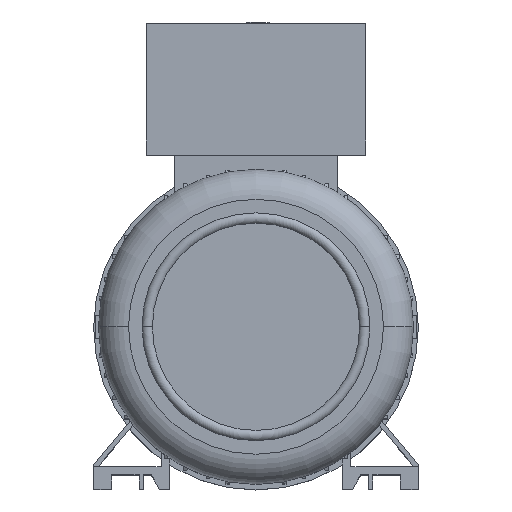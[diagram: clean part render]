
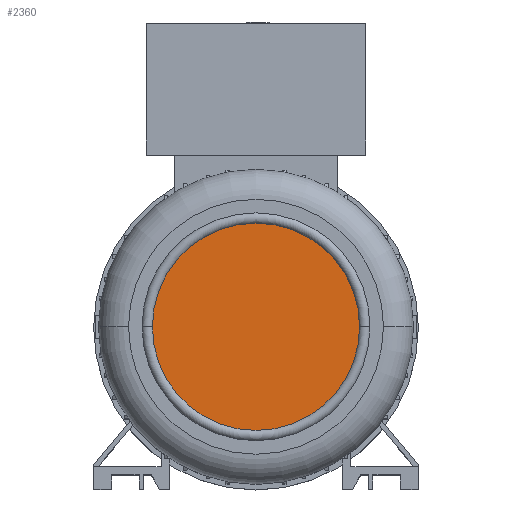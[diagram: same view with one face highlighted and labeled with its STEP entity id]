
A CAD part, top view. The second image highlights one B-rep face of the part: STEP entity #2360.
In plain terms, the highlighted planar face has unit normal (0, 0, 1).
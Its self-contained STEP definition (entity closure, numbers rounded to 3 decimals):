
#201 = DIRECTION ( 'NONE',  ( -1., 0., 0. ) ) ;
#2225 = AXIS2_PLACEMENT_3D ( 'NONE', #20151, #11473, #11555 ) ;
#2360 = ADVANCED_FACE ( 'NONE', ( #21676 ), #2731, .T. ) ;
#2731 = PLANE ( 'NONE',  #17435 ) ;
#8241 = EDGE_LOOP ( 'NONE', ( #17184, #9592 ) ) ;
#9592 = ORIENTED_EDGE ( 'NONE', *, *, #17448, .F. ) ;
#9614 = CIRCLE ( 'NONE', #2225, 63.838 ) ;
#11473 = DIRECTION ( 'NONE',  ( 0., 0., -1. ) ) ;
#11546 = VERTEX_POINT ( 'NONE', #13563 ) ;
#11555 = DIRECTION ( 'NONE',  ( -1., 0., 0. ) ) ;
#12007 = EDGE_CURVE ( 'NONE', #11546, #12756, #9614, .T. ) ;
#12428 = CIRCLE ( 'NONE', #14909, 63.838 ) ;
#12756 = VERTEX_POINT ( 'NONE', #21150 ) ;
#13563 = CARTESIAN_POINT ( 'NONE',  ( -63.838, 0., 178. ) ) ;
#14886 = CARTESIAN_POINT ( 'NONE',  ( 0., 0., 178. ) ) ;
#14909 = AXIS2_PLACEMENT_3D ( 'NONE', #21127, #17930, #201 ) ;
#17184 = ORIENTED_EDGE ( 'NONE', *, *, #12007, .F. ) ;
#17435 = AXIS2_PLACEMENT_3D ( 'NONE', #14886, #21879, #18552 ) ;
#17448 = EDGE_CURVE ( 'NONE', #12756, #11546, #12428, .T. ) ;
#17930 = DIRECTION ( 'NONE',  ( 0., 0., -1. ) ) ;
#18552 = DIRECTION ( 'NONE',  ( 1., 0., 0. ) ) ;
#20151 = CARTESIAN_POINT ( 'NONE',  ( 0., 0., 178. ) ) ;
#21127 = CARTESIAN_POINT ( 'NONE',  ( 0., 0., 178. ) ) ;
#21150 = CARTESIAN_POINT ( 'NONE',  ( 63.838, 0., 178. ) ) ;
#21676 = FACE_OUTER_BOUND ( 'NONE', #8241, .T. ) ;
#21879 = DIRECTION ( 'NONE',  ( 0., 0., 1. ) ) ;
